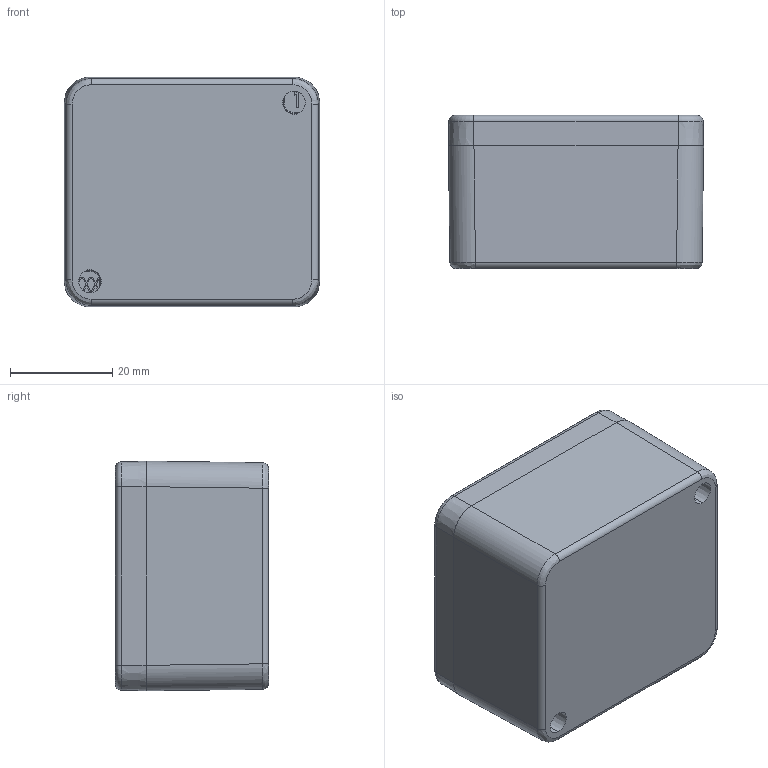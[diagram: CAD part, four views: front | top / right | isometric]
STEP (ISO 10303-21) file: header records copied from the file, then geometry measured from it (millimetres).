
FILE_DESCRIPTION((''),'2;1');
FILE_NAME('1020950000_ASM','2024-02-05T10:00:13',('Stephanie.Hoppe'),(''),'CREO PARAMETRIC BY PTC INC, 2022124','CREO PARAMETRIC BY PTC INC, 2022124','');
FILE_SCHEMA(('AUTOMOTIVE_DESIGN { 1 0 10303 214 1 1 1 1 }'));
Length unit declared in the file: millimetre
Products named in the file (10): 9301001000_AF0; 9261114000; 9601142000_ASM; 9601585000_ASM; 9302001000_AF0; 9611130000_ASM; DICHTUNG_CA020; 9611343000_ASM; 9261011000; 1020950000_ASM
Assembly tree (11 placements, depth 4):
  1020950000_ASM
    9601585000_ASM
      9601142000_ASM
        9301001000_AF0
        9261114000
    9611343000_ASM
      9611130000_ASM
        9302001000_AF0
        9261114000
      DICHTUNG_CA020
    9261011000  x2
Bounding box: 50 x 30 x 45 mm (x, y, z)
Volume: 26236.9 mm3; surface area: 23865.5 mm2
Topology: 25 solids, 33 shells, 866 faces, 2302 edges, 1506 vertices
Faces by surface type: plane 368, cylinder 262, cone 136, torus 76, bspline 20, sphere 4
Entity records: 41138 total; most frequent: CARTESIAN_POINT 6949, DIRECTION 4084, ORIENTED_EDGE 3546, PRESENTATION_STYLE_ASSIGNMENT 2525, STYLED_ITEM 2525, CURVE_STYLE 2042, EDGE_CURVE 1785, AXIS2_PLACEMENT_3D 1481
